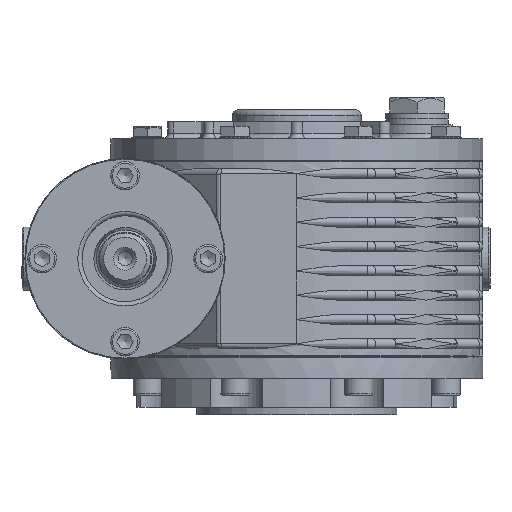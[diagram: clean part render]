
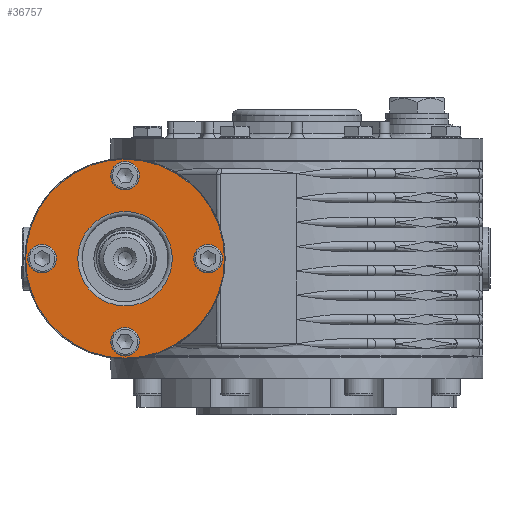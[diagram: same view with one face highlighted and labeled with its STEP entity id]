
A CAD part, left-side view. The second image highlights one B-rep face of the part: STEP entity #36757.
In plain terms, the highlighted planar face has unit normal (-1, 0, 0).
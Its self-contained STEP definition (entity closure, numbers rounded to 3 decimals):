
#36662=CARTESIAN_POINT('',(0.,16.5,0.));
#36663=VERTEX_POINT('',#36662);
#36664=CARTESIAN_POINT('',(0.,0.0,0.0));
#36665=DIRECTION('',(-1.0,0.0,0.0));
#36666=DIRECTION('',(0.0,-1.0,0.0));
#36667=AXIS2_PLACEMENT_3D('',#36664,#36665,#36666);
#36668=CIRCLE('',#36667,16.5);
#36669=EDGE_CURVE('',#36663,#36663,#36668,.T.);
#36694=CARTESIAN_POINT('',(0.,24.875,0.0));
#36695=DIRECTION('',(-1.0,0.0,0.0));
#36696=DIRECTION('',(0.0,0.0,1.0));
#36697=AXIS2_PLACEMENT_3D('',#36694,#36695,#36696);
#36698=PLANE('',#36697);
#36699=CARTESIAN_POINT('',(0.,34.75,0.0));
#36700=VERTEX_POINT('',#36699);
#36701=CARTESIAN_POINT('',(0.,0.0,0.0));
#36702=DIRECTION('',(1.0,0.0,0.0));
#36703=DIRECTION('',(0.0,1.0,0.0));
#36704=AXIS2_PLACEMENT_3D('',#36701,#36702,#36703);
#36705=CIRCLE('',#36704,34.75);
#36706=EDGE_CURVE('',#36700,#36700,#36705,.T.);
#36707=ORIENTED_EDGE('',*,*,#36706,.F.);
#36708=EDGE_LOOP('',(#36707));
#36709=FACE_OUTER_BOUND('',#36708,.T.);
#36710=CARTESIAN_POINT('',(0.,29.,-3.25));
#36711=VERTEX_POINT('',#36710);
#36712=CARTESIAN_POINT('',(0.,29.,0.));
#36713=DIRECTION('',(1.0,0.0,0.0));
#36714=DIRECTION('',(0.0,0.0,1.0));
#36715=AXIS2_PLACEMENT_3D('',#36712,#36713,#36714);
#36716=CIRCLE('',#36715,3.25);
#36717=EDGE_CURVE('',#36711,#36711,#36716,.T.);
#36718=ORIENTED_EDGE('',*,*,#36717,.T.);
#36719=EDGE_LOOP('',(#36718));
#36720=FACE_BOUND('',#36719,.T.);
#36721=CARTESIAN_POINT('',(0.,3.25,29.));
#36722=VERTEX_POINT('',#36721);
#36723=CARTESIAN_POINT('',(0.,0.,29.));
#36724=DIRECTION('',(1.0,0.0,0.0));
#36725=DIRECTION('',(0.0,-1.0,0.0));
#36726=AXIS2_PLACEMENT_3D('',#36723,#36724,#36725);
#36727=CIRCLE('',#36726,3.25);
#36728=EDGE_CURVE('',#36722,#36722,#36727,.T.);
#36729=ORIENTED_EDGE('',*,*,#36728,.T.);
#36730=EDGE_LOOP('',(#36729));
#36731=FACE_BOUND('',#36730,.T.);
#36732=CARTESIAN_POINT('',(0.,-29.,3.25));
#36733=VERTEX_POINT('',#36732);
#36734=CARTESIAN_POINT('',(0.,-29.,0.));
#36735=DIRECTION('',(1.0,0.0,0.0));
#36736=DIRECTION('',(0.0,0.0,-1.0));
#36737=AXIS2_PLACEMENT_3D('',#36734,#36735,#36736);
#36738=CIRCLE('',#36737,3.25);
#36739=EDGE_CURVE('',#36733,#36733,#36738,.T.);
#36740=ORIENTED_EDGE('',*,*,#36739,.T.);
#36741=EDGE_LOOP('',(#36740));
#36742=FACE_BOUND('',#36741,.T.);
#36743=CARTESIAN_POINT('',(0.,-3.25,-29.));
#36744=VERTEX_POINT('',#36743);
#36745=CARTESIAN_POINT('',(0.,0.,-29.));
#36746=DIRECTION('',(1.0,0.0,0.0));
#36747=DIRECTION('',(0.0,1.0,0.0));
#36748=AXIS2_PLACEMENT_3D('',#36745,#36746,#36747);
#36749=CIRCLE('',#36748,3.25);
#36750=EDGE_CURVE('',#36744,#36744,#36749,.T.);
#36751=ORIENTED_EDGE('',*,*,#36750,.T.);
#36752=EDGE_LOOP('',(#36751));
#36753=FACE_BOUND('',#36752,.T.);
#36754=ORIENTED_EDGE('',*,*,#36669,.F.);
#36755=EDGE_LOOP('',(#36754));
#36756=FACE_BOUND('',#36755,.T.);
#36757=ADVANCED_FACE('',(#36709,#36720,#36731,#36742,#36753,#36756),#36698,.T.);
